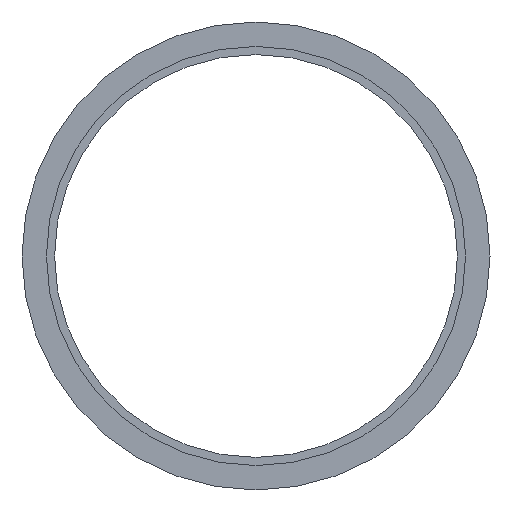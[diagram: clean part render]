
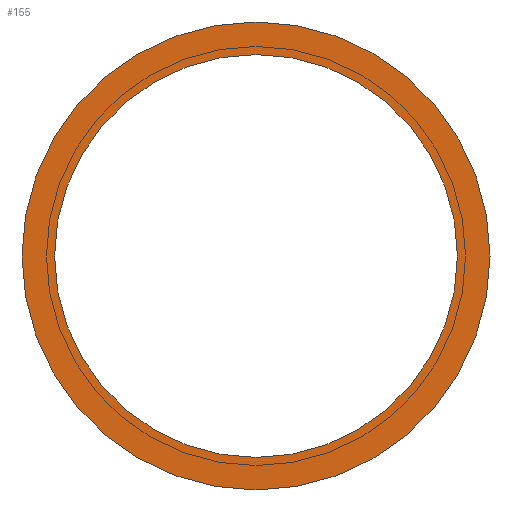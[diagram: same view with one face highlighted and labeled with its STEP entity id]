
A CAD part, left-side view. The second image highlights one B-rep face of the part: STEP entity #155.
In plain terms, the highlighted planar face has unit normal (-1, 0, 0).
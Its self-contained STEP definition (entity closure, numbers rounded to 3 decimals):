
#84=CARTESIAN_POINT('',(-33.741,54.415,49.5));
#85=VERTEX_POINT('',#84);
#86=CARTESIAN_POINT('',(-33.741,54.415,0.0));
#87=DIRECTION('',(1.0,0.0,0.0));
#88=DIRECTION('',(0.0,0.0,-1.0));
#89=AXIS2_PLACEMENT_3D('',#86,#87,#88);
#90=CIRCLE('',#89,49.5);
#91=EDGE_CURVE('',#85,#85,#90,.T.);
#129=CARTESIAN_POINT('',(-33.741,-3.085,0.0));
#130=VERTEX_POINT('',#129);
#131=CARTESIAN_POINT('',(-33.741,54.415,0.0));
#132=DIRECTION('',(-1.0,0.0,0.0));
#133=DIRECTION('',(0.0,-1.0,0.0));
#134=AXIS2_PLACEMENT_3D('',#131,#132,#133);
#135=CIRCLE('',#134,57.5);
#136=EDGE_CURVE('',#130,#130,#135,.T.);
#144=CARTESIAN_POINT('',(-33.741,25.665,0.0));
#145=DIRECTION('',(-1.0,0.0,0.0));
#146=DIRECTION('',(0.0,0.0,1.0));
#147=AXIS2_PLACEMENT_3D('',#144,#145,#146);
#148=PLANE('',#147);
#149=ORIENTED_EDGE('',*,*,#136,.T.);
#150=EDGE_LOOP('',(#149));
#151=FACE_OUTER_BOUND('',#150,.T.);
#152=ORIENTED_EDGE('',*,*,#91,.T.);
#153=EDGE_LOOP('',(#152));
#154=FACE_BOUND('',#153,.T.);
#155=ADVANCED_FACE('',(#151,#154),#148,.T.);
